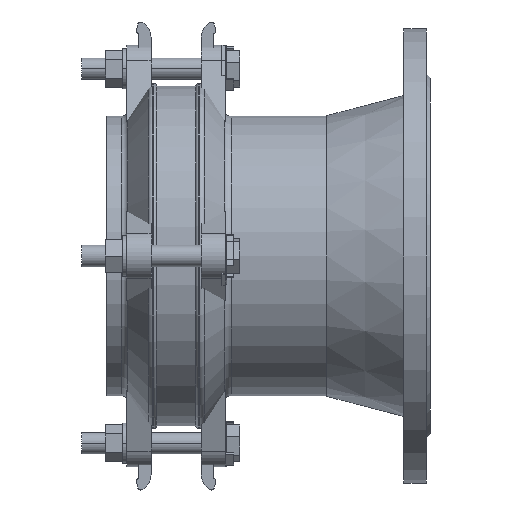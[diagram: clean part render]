
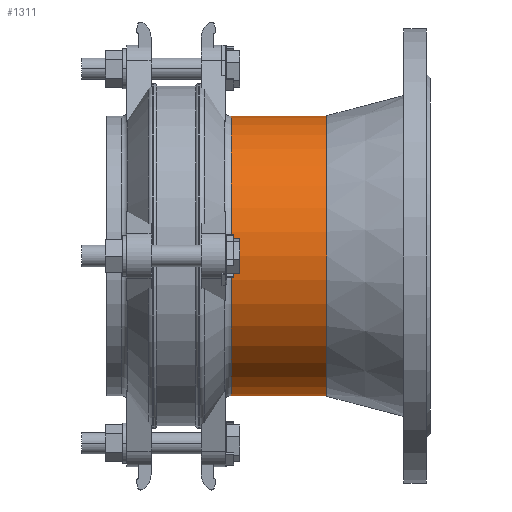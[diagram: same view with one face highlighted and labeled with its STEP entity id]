
A CAD part, front view. The second image highlights one B-rep face of the part: STEP entity #1311.
In plain terms, the highlighted cylindrical face has radius 104.5 mm (diameter 209 mm), a partial arc.
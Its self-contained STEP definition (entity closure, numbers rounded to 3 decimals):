
#1311=ADVANCED_FACE('',(#2521),#2522,.T.);
#2521=FACE_OUTER_BOUND('',#3924,.T.);
#2522=CYLINDRICAL_SURFACE('',#3925,104.5);
#3924=EDGE_LOOP('',(#6295,#6296,#6297,#6298,#6299));
#3925=AXIS2_PLACEMENT_3D('',#6300,#6301,#6302);
#6295=ORIENTED_EDGE('',*,*,#7992,.F.);
#6296=ORIENTED_EDGE('',*,*,#7917,.T.);
#6297=ORIENTED_EDGE('',*,*,#7786,.T.);
#6298=ORIENTED_EDGE('',*,*,#7994,.F.);
#6299=ORIENTED_EDGE('',*,*,#8425,.F.);
#6300=CARTESIAN_POINT('',(-113.311,0.,0.));
#6301=DIRECTION('',(1.0,0.,0.));
#6302=DIRECTION('',(0.,0.,1.0));
#7786=EDGE_CURVE('',#9221,#9229,#9231,.T.);
#7917=EDGE_CURVE('',#9439,#9221,#9440,.T.);
#7992=EDGE_CURVE('',#9439,#9556,#9557,.T.);
#7994=EDGE_CURVE('',#9558,#9229,#9560,.T.);
#8425=EDGE_CURVE('',#9556,#9558,#10158,.T.);
#9221=VERTEX_POINT('',#11151);
#9229=VERTEX_POINT('',#11159);
#9231=CIRCLE('',#11161,104.5);
#9439=VERTEX_POINT('',#11426);
#9440=CIRCLE('',#11427,104.5);
#9556=VERTEX_POINT('',#11568);
#9557=LINE('',#11569,#11570);
#9558=VERTEX_POINT('',#11571);
#9560=LINE('',#11573,#11574);
#10158=CIRCLE('',#12376,104.5);
#11151=CARTESIAN_POINT('',(-149.121,-104.5,0.));
#11159=CARTESIAN_POINT('',(-149.121,0.,-104.5));
#11161=AXIS2_PLACEMENT_3D('',#13143,#13144,#13145);
#11426=CARTESIAN_POINT('',(-149.121,0.,104.5));
#11427=AXIS2_PLACEMENT_3D('',#13338,#13339,#13340);
#11568=CARTESIAN_POINT('',(-77.5,0.,104.5));
#11569=CARTESIAN_POINT('',(-113.311,0.,104.5));
#11570=VECTOR('',#13471,1.0);
#11571=CARTESIAN_POINT('',(-77.5,0.,-104.5));
#11573=CARTESIAN_POINT('',(-113.311,0.,-104.5));
#11574=VECTOR('',#13475,1.0);
#12376=AXIS2_PLACEMENT_3D('',#13944,#13945,#13946);
#13143=CARTESIAN_POINT('',(-149.121,0.,0.0));
#13144=DIRECTION('',(1.0,0.,0.));
#13145=DIRECTION('',(0.,0.,1.0));
#13338=CARTESIAN_POINT('',(-149.121,0.,0.0));
#13339=DIRECTION('',(1.0,0.,0.));
#13340=DIRECTION('',(0.,0.,1.0));
#13471=DIRECTION('',(1.0,0.,0.));
#13475=DIRECTION('',(-1.0,0.,0.));
#13944=CARTESIAN_POINT('',(-77.5,0.,0.));
#13945=DIRECTION('',(1.0,0.,0.));
#13946=DIRECTION('',(0.,0.,1.0));
